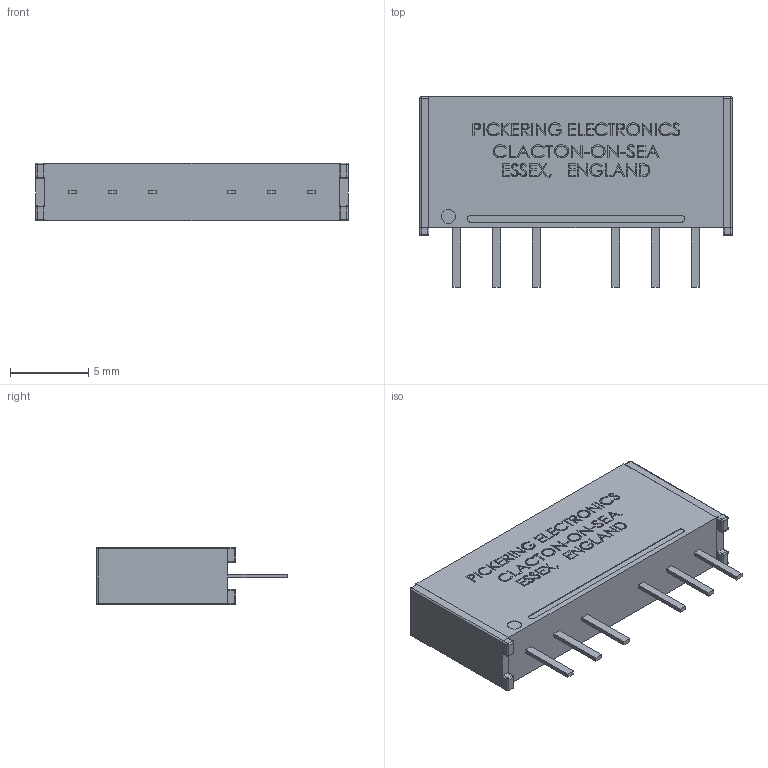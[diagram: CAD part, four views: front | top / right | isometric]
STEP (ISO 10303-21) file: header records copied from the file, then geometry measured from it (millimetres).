
FILE_DESCRIPTION (( 'STEP AP203' ), '1' );
FILE_NAME ('108-2-A.STEP', '2010-06-29T10:51:47', ( ' ' ), ( '' ), 'SwSTEP 2.0', 'SolidWorks 2009', '' );
FILE_SCHEMA (( 'CONFIG_CONTROL_DESIGN' ));
Length unit declared in the file: millimetre
Products named in the file (1): 108-2-A
Bounding box: 20 x 12.2 x 3.7 mm (x, y, z)
Volume: 624.1 mm3; surface area: 728.7 mm2
Topology: 7 solids, 7 shells, 1108 faces, 2900 edges, 1900 vertices
Faces by surface type: plane 741, bspline 297, cylinder 50, sphere 20
Entity records: 50003 total; most frequent: CARTESIAN_POINT 24722, ORIENTED_EDGE 5760, DIRECTION 4010, EDGE_CURVE 2880, LINE 2186, VECTOR 2186, VERTEX_POINT 1900, EDGE_LOOP 1222
